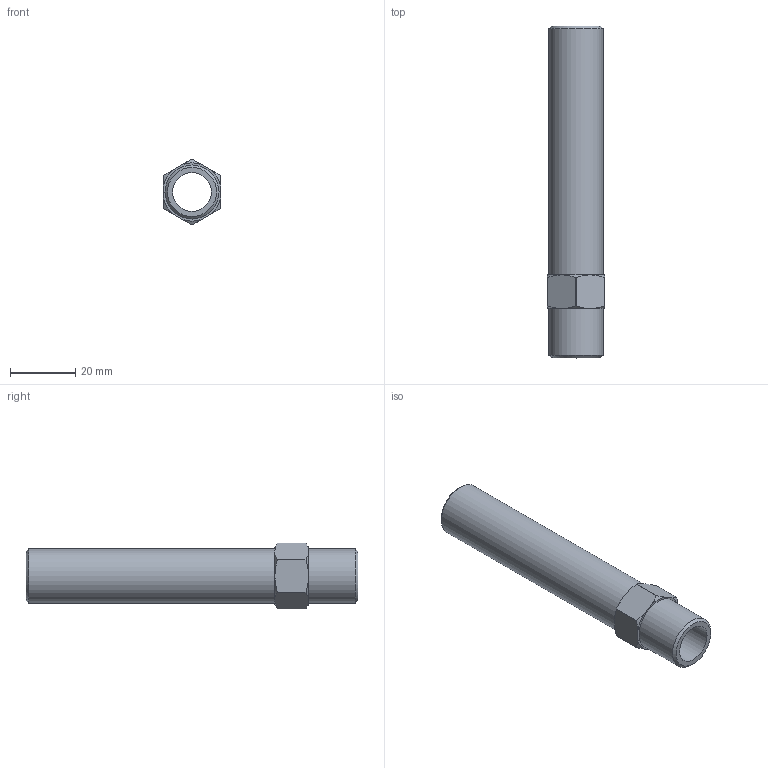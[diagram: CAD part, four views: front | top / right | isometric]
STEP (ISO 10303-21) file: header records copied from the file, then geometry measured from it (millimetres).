
FILE_DESCRIPTION(/* description */ (''),/* implementation_level */ '2;1');
FILE_NAME(/* name */ 'C:/Users/drich/Desktop/APN38-4 v1.step',/* time_stamp */ '2019-12-27T17:54:20-06:00',/* author */ (''),/* organization */ (''),/* preprocessor_version */ 'ST-DEVELOPER v18',/* originating_system */ 'Autodesk Translation Framework v8.12.0.6',/* authorisation */ '');
FILE_SCHEMA (('AUTOMOTIVE_DESIGN { 1 0 10303 214 3 1 1 }'));
Length unit declared in the file: inch
Products named in the file (1): APN38-4
Bounding box: 17.45 x 101.6 x 20.12 mm (x, y, z)
Volume: 11004 mm3; surface area: 9394.6 mm2
Topology: 1 solids, 1 shells, 33 faces, 89 edges, 60 vertices
Faces by surface type: cone 14, plane 10, cylinder 9
Full cylindrical faces by diameter (mm): 11.887 x1, 16.537 x2
Entity records: 1077 total; most frequent: CARTESIAN_POINT 231, ORIENTED_EDGE 178, DIRECTION 169, EDGE_CURVE 89, AXIS2_PLACEMENT_3D 70, VERTEX_POINT 60, EDGE_LOOP 37, CIRCLE 36
